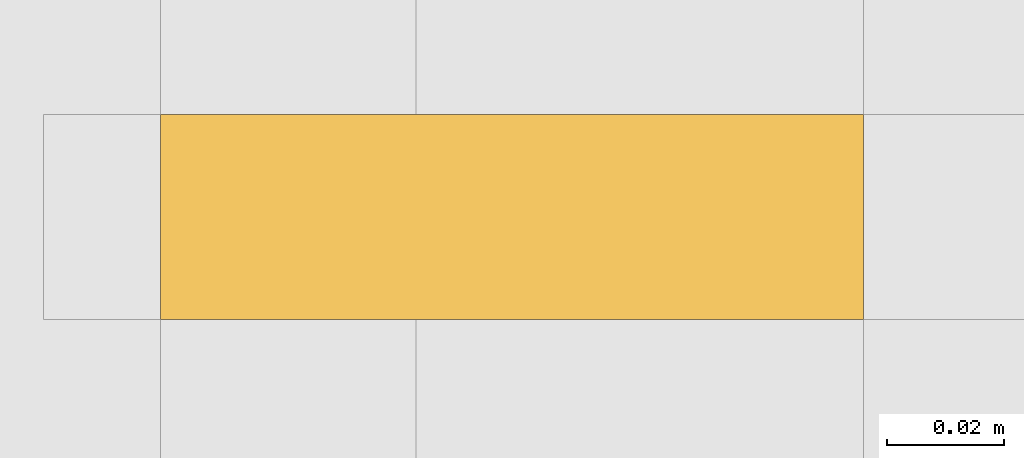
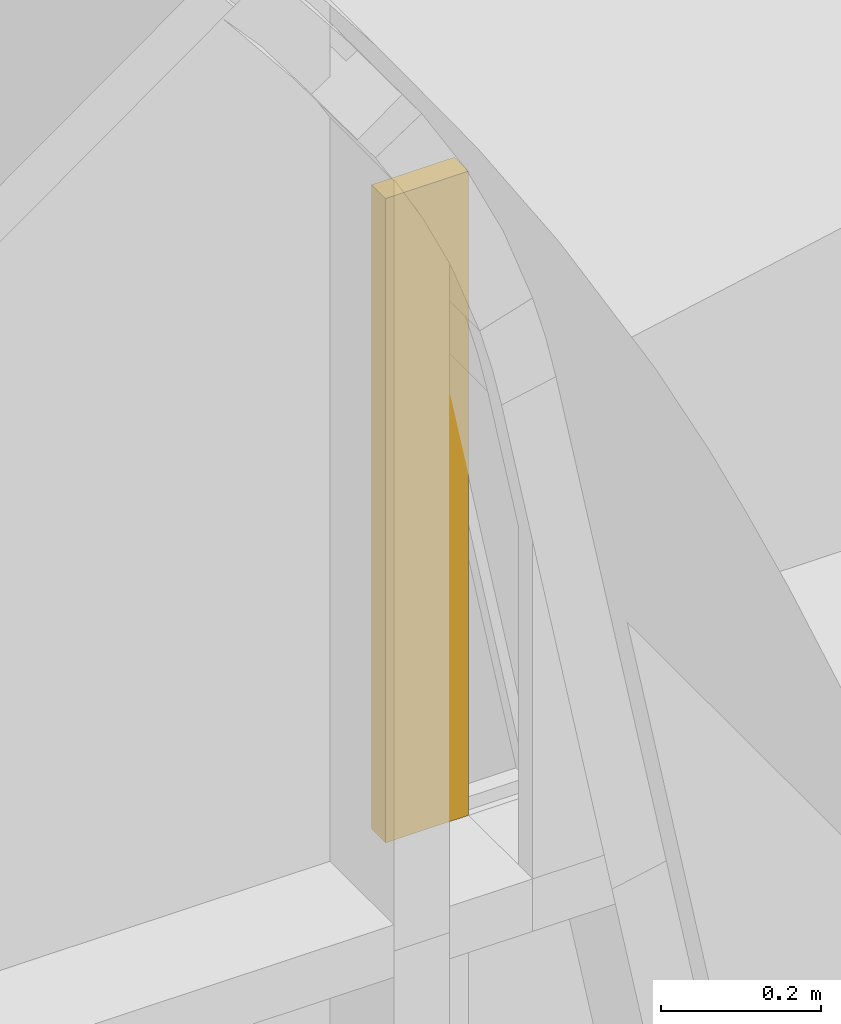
# One storey, part 251 of 302: 1 curtain wall, 1 element without a shape of its own.
"""IFC2X3 building model written with IfcOpenShell, lengths in metres."""

from ifc_helpers import new_model, entity, si_unit, converted_unit, derived_unit, direction, frame, frame_2d, origin, place, context, subcontext, project, spatial, rectangle, extrude, material, layer, layer_set, layer_usage, type_object, element, aggregate, save


model = new_model("IFC2X3")

# Units and contexts
model_context = context("Model", 3, precision=1e-05, world=origin(), true_north=direction((6.12303176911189e-17, 1.0)))
body_context = subcontext(model_context, "Body", "Model", "MODEL_VIEW")
ifc_project = project(units=[si_unit("LENGTHUNIT", "METRE"), si_unit("AREAUNIT", "SQUARE_METRE"), si_unit("VOLUMEUNIT", "CUBIC_METRE"), converted_unit("PLANEANGLEUNIT", "DEGREE", entity("IfcRatioMeasure", 0.0174532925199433), si_unit("PLANEANGLEUNIT", "RADIAN"), dimensions=[0, 0, 0, 0, 0, 0, 0]), si_unit("MASSUNIT", "GRAM", prefix="KILO"), derived_unit("MASSDENSITYUNIT", [(si_unit("MASSUNIT", "GRAM", prefix="KILO"), 1), (si_unit("LENGTHUNIT", "METRE"), -3)]), derived_unit("MOMENTOFINERTIAUNIT", [(si_unit("LENGTHUNIT", "METRE"), 4)]), si_unit("TIMEUNIT", "SECOND"), si_unit("FREQUENCYUNIT", "HERTZ"), si_unit("THERMODYNAMICTEMPERATUREUNIT", "DEGREE_CELSIUS"), derived_unit("THERMALTRANSMITTANCEUNIT", [(si_unit("MASSUNIT", "GRAM", prefix="KILO"), 1), (si_unit("THERMODYNAMICTEMPERATUREUNIT", "KELVIN"), -1), (si_unit("TIMEUNIT", "SECOND"), -3)]), derived_unit("VOLUMETRICFLOWRATEUNIT", [(si_unit("LENGTHUNIT", "METRE"), 3), (si_unit("TIMEUNIT", "SECOND"), -1)]), si_unit("ELECTRICCURRENTUNIT", "AMPERE"), si_unit("ELECTRICVOLTAGEUNIT", "VOLT"), si_unit("POWERUNIT", "WATT"), si_unit("FORCEUNIT", "NEWTON", prefix="KILO"), si_unit("ILLUMINANCEUNIT", "LUX"), si_unit("LUMINOUSFLUXUNIT", "LUMEN"), si_unit("LUMINOUSINTENSITYUNIT", "CANDELA"), derived_unit("USERDEFINED", [(si_unit("MASSUNIT", "GRAM", prefix="KILO"), -1), (si_unit("LENGTHUNIT", "METRE"), -2), (si_unit("TIMEUNIT", "SECOND"), 3), (si_unit("LUMINOUSFLUXUNIT", "LUMEN"), 1)]), derived_unit("LINEARVELOCITYUNIT", [(si_unit("LENGTHUNIT", "METRE"), 1), (si_unit("TIMEUNIT", "SECOND"), -1)]), si_unit("PRESSUREUNIT", "PASCAL"), derived_unit("USERDEFINED", [(si_unit("LENGTHUNIT", "METRE"), -2), (si_unit("MASSUNIT", "GRAM", prefix="KILO"), 1), (si_unit("TIMEUNIT", "SECOND"), -2)]), derived_unit("LINEARFORCEUNIT", [(si_unit("MASSUNIT", "GRAM", prefix="KILO"), 1), (si_unit("LENGTHUNIT", "METRE"), 1), (si_unit("TIMEUNIT", "SECOND"), -2), (si_unit("LENGTHUNIT", "METRE"), -1)]), derived_unit("PLANARFORCEUNIT", [(si_unit("MASSUNIT", "GRAM", prefix="KILO"), 1), (si_unit("LENGTHUNIT", "METRE"), 1), (si_unit("TIMEUNIT", "SECOND"), -2), (si_unit("LENGTHUNIT", "METRE"), -2)])], contexts=[model_context])

# Site, building, storey
site_placement = place(None, origin())
site = spatial("IfcSite", under=ifc_project, at=site_placement, Name="Default", CompositionType="ELEMENT")
building_placement = place(site_placement, origin())
building = spatial("IfcBuilding", under=site, at=building_placement, CompositionType="ELEMENT")
storey_placement = place(building_placement, frame((0.0, 0.0, -1.3)))
storey = spatial("IfcBuildingStorey", under=building, at=storey_placement, Name="00_EG", CompositionType="ELEMENT", Elevation=-1.3)

# Curtain walls
curtain_wall_type_1 = type_object("IfcCurtainWallType", Name="Fassade:Glasfassade", PredefinedType="NOTDEFINED")
curtain_wall_1_placement = place(storey_placement, frame((0.0, 0.0, 1.3)))
curtain_wall_1 = element("IfcCurtainWall", 1, at=curtain_wall_1_placement, inside=storey, type_object=curtain_wall_type_1, Name="Fassade:Glasfassade", ObjectType="Fassade:Glasfassade")
ifc_material = material(Name="Glass")
ifc_layer = layer(ifc_material, 0.035)
ifc_layer_set = layer_set([ifc_layer], Name="Fassade:Sandwichpaneele 16cm")
ifc_layer_usage = layer_usage(ifc_layer_set, "AXIS2", "POSITIVE", -0.0175)
curtain_wall_type_2 = type_object("IfcCurtainWallType", Name="Basiswand:Glass", PredefinedType="NOTDEFINED", material=ifc_layer_set)
curtain_wall_2_placement = place(storey_placement, frame((-228.207969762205, 45.915588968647, 10.22), z_axis=(0.0, 0.0, 1.0), x_axis=(-1.0, 0.0, 0.0)))
curtain_wall_2 = element("IfcCurtainWall", 2, at=curtain_wall_2_placement, type_object=curtain_wall_type_2, material=ifc_layer_usage, Name="Basiswand:Glass", ObjectType="Basiswand:Glass", context=body_context, shape_type="SweptSolid", body=[
    extrude(rectangle(XDim=0.119999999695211, YDim=0.034999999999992, at=frame_2d((0.0599999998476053, 0.0), x_axis=(-1.0, 0.0))), origin(), (0.0, 0.0, 1.0), 0.983030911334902),
])
aggregate(curtain_wall_1, [curtain_wall_2])

save(model, "model.ifc")
